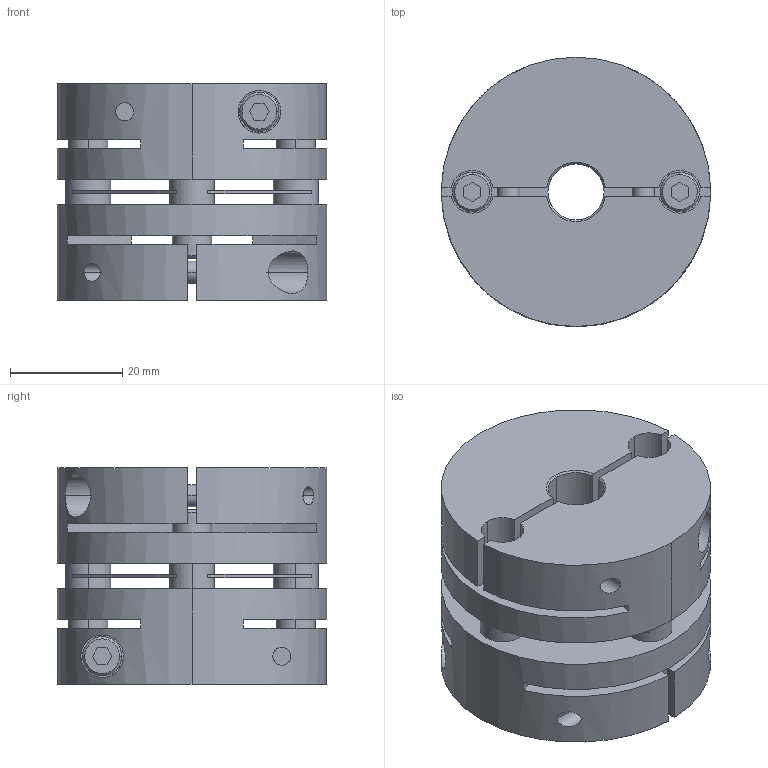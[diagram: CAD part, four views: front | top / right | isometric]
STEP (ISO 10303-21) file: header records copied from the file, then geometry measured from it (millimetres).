
FILE_DESCRIPTION((''),'2;1');
FILE_NAME('LAS-48C-10×24.stp','2015-10-14T15:41:32',(''),(''),'AutoCAD STEP 2000i','AutoCAD 2000i',', , ');
FILE_SCHEMA(('CONFIG_CONTROL_DESIGN'));
Length unit declared in the file: millimetre
Products named in the file (6): LAS-48C-12×19; 忣兜1; LA-4802-D19; LA-4802-D12-1; LA-4802-D12; LAS48-ITA
Assembly tree (5 placements, depth 2):
  LAS-48C-12×19
    忣兜1
    LA-4802-D19
    LA-4802-D12-1
    LA-4802-D12
    LAS48-ITA
Bounding box: 48 x 48 x 38.6 mm (x, y, z)
Volume: 47277.6 mm3; surface area: 21887.3 mm2
Topology: 1 solids, 1 shells, 224 faces, 600 edges, 392 vertices
Faces by surface type: plane 112, cylinder 84, cone 28
Entity records: 7841 total; most frequent: CARTESIAN_POINT 1878, DIRECTION 1256, ORIENTED_EDGE 1200, EDGE_CURVE 600, AXIS2_PLACEMENT_3D 458, VERTEX_POINT 392, VECTOR 340, LINE 340
